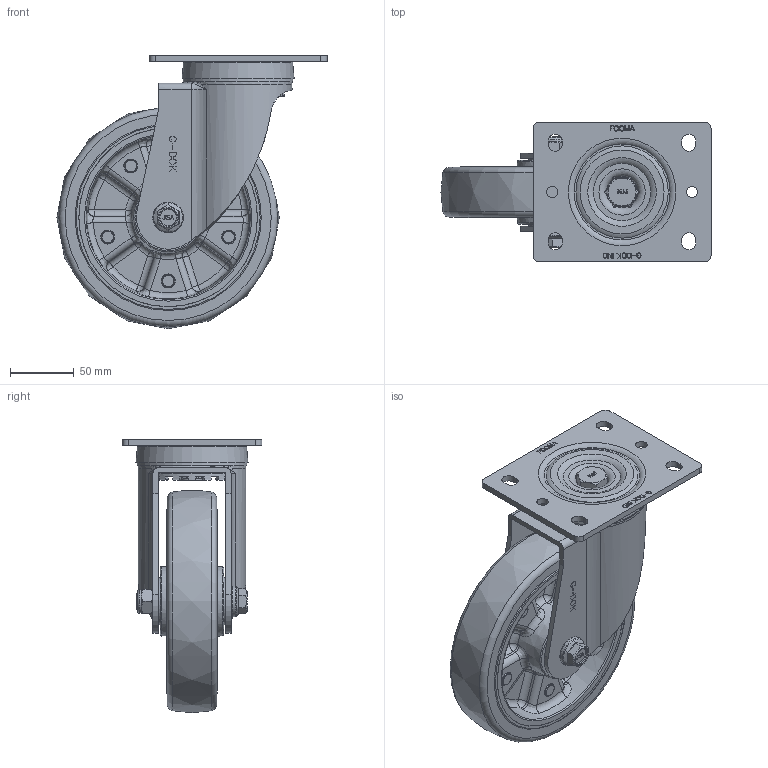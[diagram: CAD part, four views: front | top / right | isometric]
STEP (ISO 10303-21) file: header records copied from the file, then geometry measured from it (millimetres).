
FILE_DESCRIPTION(/* description */ (''),/* implementation_level */ '2;1');
FILE_NAME(/* name */ '\\192.168.10.38\지덕공유\1.기술연구소\2.연구개발 진행중\28.PLM-SERIES_MEDIUM\제품설계\홈페이지용 도면\PLM-175-ASF-MUD-PEU.stp',/* time_stamp */ '2022-03-04T18:21:06+09:00',/* author */ ('admin'),/* organization */ (''),/* preprocessor_version */ 'ST-DEVELOPER v18.1',/* originating_system */ 'Autodesk Inventor 2021',/* authorisation */ '');
FILE_SCHEMA (('AUTOMOTIVE_DESIGN { 1 0 10303 214 3 1 1 }'));
Products named in the file (1): PLM-175-ASF-MUD-PEU
Bounding box: 212.49 x 110 x 214.99 mm (x, y, z)
Volume: 884296.8 mm3; surface area: 176299.8 mm2
Topology: 1 solids, 1 shells, 1284 faces, 3406 edges, 2193 vertices
Faces by surface type: plane 727, bspline 222, cylinder 158, torus 97, cone 40, sphere 40
Full cylindrical faces by diameter (mm): 9 x2, 12 x1, 14 x1, 16 x1, 18.5 x1, 24 x1, 37 x2, 64.8 x1, 72.8 x1, 85.857 x1
Entity records: 47055 total; most frequent: CARTESIAN_POINT 16462, ORIENTED_EDGE 6804, DIRECTION 5679, EDGE_CURVE 3402, VERTEX_POINT 2193, LINE 1995, VECTOR 1995, AXIS2_PLACEMENT_3D 1842
